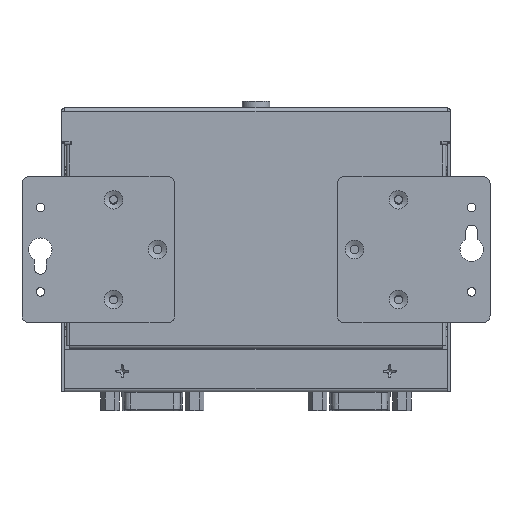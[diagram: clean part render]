
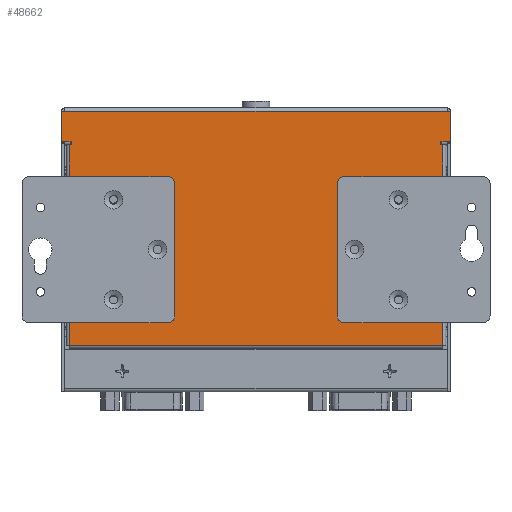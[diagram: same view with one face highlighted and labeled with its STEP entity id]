
A CAD part, front view. The second image highlights one B-rep face of the part: STEP entity #48662.
In plain terms, the highlighted planar face has unit normal (0, -1, 0).
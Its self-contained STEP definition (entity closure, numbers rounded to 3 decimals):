
#1107=FACE_BOUND('',#8639,.T.);
#1108=FACE_BOUND('',#8640,.T.);
#1109=FACE_BOUND('',#8641,.T.);
#1110=FACE_BOUND('',#8642,.T.);
#1111=FACE_BOUND('',#8643,.T.);
#1112=FACE_BOUND('',#8644,.T.);
#2535=PLANE('',#53123);
#5720=FACE_OUTER_BOUND('',#8638,.T.);
#8638=EDGE_LOOP('',(#44052,#44053,#44054,#44055,#44056,#44057,#44058,#44059,
#44060,#44061,#44062,#44063,#44064,#44065));
#8639=EDGE_LOOP('',(#44066));
#8640=EDGE_LOOP('',(#44067));
#8641=EDGE_LOOP('',(#44068));
#8642=EDGE_LOOP('',(#44069));
#8643=EDGE_LOOP('',(#44070));
#8644=EDGE_LOOP('',(#44071));
#13479=LINE('',#96515,#18541);
#13481=LINE('',#96521,#18543);
#13484=LINE('',#96527,#18546);
#13509=LINE('',#96580,#18571);
#13511=LINE('',#96584,#18573);
#13512=LINE('',#96586,#18574);
#13513=LINE('',#96588,#18575);
#13514=LINE('',#96590,#18576);
#13515=LINE('',#96592,#18577);
#13516=LINE('',#96594,#18578);
#13517=LINE('',#96596,#18579);
#13518=LINE('',#96598,#18580);
#13519=LINE('',#96600,#18581);
#13520=LINE('',#96601,#18582);
#18541=VECTOR('',#65072,10.);
#18543=VECTOR('',#65080,10.);
#18546=VECTOR('',#65087,10.);
#18571=VECTOR('',#65136,10.);
#18573=VECTOR('',#65140,10.);
#18574=VECTOR('',#65141,10.);
#18575=VECTOR('',#65142,10.);
#18576=VECTOR('',#65143,10.);
#18577=VECTOR('',#65144,10.);
#18578=VECTOR('',#65145,10.);
#18579=VECTOR('',#65146,10.);
#18580=VECTOR('',#65147,10.);
#18581=VECTOR('',#65148,10.);
#18582=VECTOR('',#65149,10.);
#20494=CIRCLE('',#53047,1.265);
#20496=CIRCLE('',#53050,1.265);
#20498=CIRCLE('',#53053,1.265);
#20500=CIRCLE('',#53056,1.265);
#20502=CIRCLE('',#53059,1.265);
#20504=CIRCLE('',#53062,1.265);
#24646=VERTEX_POINT('',#96353);
#24648=VERTEX_POINT('',#96359);
#24650=VERTEX_POINT('',#96365);
#24652=VERTEX_POINT('',#96371);
#24654=VERTEX_POINT('',#96377);
#24656=VERTEX_POINT('',#96383);
#24685=VERTEX_POINT('',#96491);
#24690=VERTEX_POINT('',#96508);
#24693=VERTEX_POINT('',#96513);
#24694=VERTEX_POINT('',#96520);
#24711=VERTEX_POINT('',#96579);
#24712=VERTEX_POINT('',#96583);
#24713=VERTEX_POINT('',#96585);
#24714=VERTEX_POINT('',#96587);
#24715=VERTEX_POINT('',#96589);
#24716=VERTEX_POINT('',#96591);
#24717=VERTEX_POINT('',#96593);
#24718=VERTEX_POINT('',#96595);
#24719=VERTEX_POINT('',#96597);
#24720=VERTEX_POINT('',#96599);
#31252=EDGE_CURVE('',#24646,#24646,#20494,.T.);
#31255=EDGE_CURVE('',#24648,#24648,#20496,.T.);
#31258=EDGE_CURVE('',#24650,#24650,#20498,.T.);
#31261=EDGE_CURVE('',#24652,#24652,#20500,.T.);
#31264=EDGE_CURVE('',#24654,#24654,#20502,.T.);
#31267=EDGE_CURVE('',#24656,#24656,#20504,.T.);
#31333=EDGE_CURVE('',#24690,#24693,#13479,.T.);
#31336=EDGE_CURVE('',#24694,#24685,#13481,.T.);
#31340=EDGE_CURVE('',#24685,#24690,#13484,.T.);
#31366=EDGE_CURVE('',#24694,#24711,#13509,.T.);
#31368=EDGE_CURVE('',#24693,#24712,#13511,.T.);
#31369=EDGE_CURVE('',#24712,#24713,#13512,.T.);
#31370=EDGE_CURVE('',#24713,#24714,#13513,.T.);
#31371=EDGE_CURVE('',#24714,#24715,#13514,.T.);
#31372=EDGE_CURVE('',#24715,#24716,#13515,.T.);
#31373=EDGE_CURVE('',#24716,#24717,#13516,.T.);
#31374=EDGE_CURVE('',#24717,#24718,#13517,.T.);
#31375=EDGE_CURVE('',#24718,#24719,#13518,.T.);
#31376=EDGE_CURVE('',#24719,#24720,#13519,.T.);
#31377=EDGE_CURVE('',#24720,#24711,#13520,.T.);
#44052=ORIENTED_EDGE('',*,*,#31336,.T.);
#44053=ORIENTED_EDGE('',*,*,#31340,.T.);
#44054=ORIENTED_EDGE('',*,*,#31333,.T.);
#44055=ORIENTED_EDGE('',*,*,#31368,.T.);
#44056=ORIENTED_EDGE('',*,*,#31369,.T.);
#44057=ORIENTED_EDGE('',*,*,#31370,.T.);
#44058=ORIENTED_EDGE('',*,*,#31371,.T.);
#44059=ORIENTED_EDGE('',*,*,#31372,.T.);
#44060=ORIENTED_EDGE('',*,*,#31373,.T.);
#44061=ORIENTED_EDGE('',*,*,#31374,.T.);
#44062=ORIENTED_EDGE('',*,*,#31375,.T.);
#44063=ORIENTED_EDGE('',*,*,#31376,.T.);
#44064=ORIENTED_EDGE('',*,*,#31377,.T.);
#44065=ORIENTED_EDGE('',*,*,#31366,.F.);
#44066=ORIENTED_EDGE('',*,*,#31252,.T.);
#44067=ORIENTED_EDGE('',*,*,#31255,.T.);
#44068=ORIENTED_EDGE('',*,*,#31258,.T.);
#44069=ORIENTED_EDGE('',*,*,#31261,.T.);
#44070=ORIENTED_EDGE('',*,*,#31264,.T.);
#44071=ORIENTED_EDGE('',*,*,#31267,.T.);
#48662=ADVANCED_FACE('',(#5720,#1107,#1108,#1109,#1110,#1111,#1112),#2535,
 .T.);
#53047=AXIS2_PLACEMENT_3D('',#96354,#64899,#64900);
#53050=AXIS2_PLACEMENT_3D('',#96360,#64906,#64907);
#53053=AXIS2_PLACEMENT_3D('',#96366,#64913,#64914);
#53056=AXIS2_PLACEMENT_3D('',#96372,#64920,#64921);
#53059=AXIS2_PLACEMENT_3D('',#96378,#64927,#64928);
#53062=AXIS2_PLACEMENT_3D('',#96384,#64934,#64935);
#53123=AXIS2_PLACEMENT_3D('',#96582,#65138,#65139);
#64899=DIRECTION('center_axis',(0.,1.,0.));
#64900=DIRECTION('ref_axis',(0.,0.,-1.));
#64906=DIRECTION('center_axis',(0.,1.,0.));
#64907=DIRECTION('ref_axis',(0.,0.,-1.));
#64913=DIRECTION('center_axis',(0.,1.,0.));
#64914=DIRECTION('ref_axis',(0.,0.,-1.));
#64920=DIRECTION('center_axis',(0.,1.,0.));
#64921=DIRECTION('ref_axis',(0.,0.,-1.));
#64927=DIRECTION('center_axis',(0.,1.,0.));
#64928=DIRECTION('ref_axis',(0.,0.,-1.));
#64934=DIRECTION('center_axis',(0.,1.,0.));
#64935=DIRECTION('ref_axis',(0.,0.,-1.));
#65072=DIRECTION('',(-1.,0.,0.));
#65080=DIRECTION('',(-1.,0.,0.));
#65087=DIRECTION('',(-1.,0.,0.));
#65136=DIRECTION('',(0.,0.,-1.));
#65138=DIRECTION('center_axis',(0.,-1.,0.));
#65139=DIRECTION('ref_axis',(1.,0.,0.));
#65140=DIRECTION('',(0.,0.,-1.));
#65141=DIRECTION('',(1.,0.,0.));
#65142=DIRECTION('',(0.,0.,-1.));
#65143=DIRECTION('',(-1.,0.,0.));
#65144=DIRECTION('',(0.,0.,-1.));
#65145=DIRECTION('',(1.,0.,0.));
#65146=DIRECTION('',(0.,0.,1.));
#65147=DIRECTION('',(-1.,0.,0.));
#65148=DIRECTION('',(0.,0.,1.));
#65149=DIRECTION('',(1.,0.,0.));
#96353=CARTESIAN_POINT('',(-29.15,-8.,-39.536));
#96354=CARTESIAN_POINT('Origin',(-29.15,-8.,-40.8));
#96359=CARTESIAN_POINT('',(42.25,-8.,-24.536));
#96360=CARTESIAN_POINT('Origin',(42.25,-8.,-25.8));
#96365=CARTESIAN_POINT('',(42.25,-8.,-54.536));
#96366=CARTESIAN_POINT('Origin',(42.25,-8.,-55.8));
#96371=CARTESIAN_POINT('',(29.15,-8.,-39.536));
#96372=CARTESIAN_POINT('Origin',(29.15,-8.,-40.8));
#96377=CARTESIAN_POINT('',(-42.25,-8.,-24.536));
#96378=CARTESIAN_POINT('Origin',(-42.25,-8.,-25.8));
#96383=CARTESIAN_POINT('',(-42.25,-8.,-54.536));
#96384=CARTESIAN_POINT('Origin',(-42.25,-8.,-55.8));
#96491=CARTESIAN_POINT('',(56.64,-8.,0.19));
#96508=CARTESIAN_POINT('',(-56.64,-8.,0.19));
#96513=CARTESIAN_POINT('',(-57.65,-8.,0.19));
#96515=CARTESIAN_POINT('',(-53.85,-8.,0.19));
#96520=CARTESIAN_POINT('',(57.65,-8.,0.19));
#96521=CARTESIAN_POINT('',(-53.85,-8.,0.19));
#96527=CARTESIAN_POINT('',(-53.85,-8.,0.19));
#96579=CARTESIAN_POINT('',(57.65,-8.,-8.8));
#96580=CARTESIAN_POINT('',(57.65,-8.,-8.8));
#96582=CARTESIAN_POINT('Origin',(-50.05,-8.,-25.));
#96583=CARTESIAN_POINT('',(-57.65,-8.,-8.8));
#96584=CARTESIAN_POINT('',(-57.65,-8.,-8.8));
#96585=CARTESIAN_POINT('',(-54.74,-8.,-8.8));
#96586=CARTESIAN_POINT('',(-52.395,-8.,-8.8));
#96587=CARTESIAN_POINT('',(-54.74,-8.,-9.8));
#96588=CARTESIAN_POINT('',(-54.74,-8.,-17.4));
#96589=CARTESIAN_POINT('',(-55.24,-8.,-9.8));
#96590=CARTESIAN_POINT('',(-53.15,-8.,-9.8));
#96591=CARTESIAN_POINT('',(-55.24,-8.,-69.157));
#96592=CARTESIAN_POINT('',(-55.24,-8.,-47.4));
#96593=CARTESIAN_POINT('',(55.24,-8.,-69.157));
#96594=CARTESIAN_POINT('',(2.595,-8.,-69.157));
#96595=CARTESIAN_POINT('',(55.24,-8.,-9.8));
#96596=CARTESIAN_POINT('',(55.24,-8.,-17.4));
#96597=CARTESIAN_POINT('',(54.74,-8.,-9.8));
#96598=CARTESIAN_POINT('',(2.345,-8.,-9.8));
#96599=CARTESIAN_POINT('',(54.74,-8.,-8.8));
#96600=CARTESIAN_POINT('',(54.74,-8.,-16.9));
#96601=CARTESIAN_POINT('',(3.1,-8.,-8.8));
